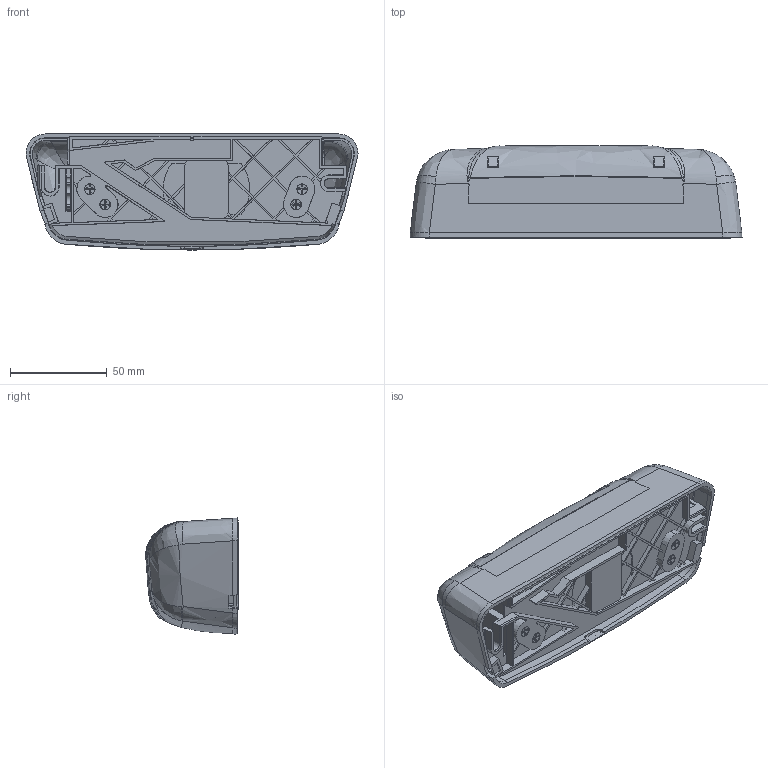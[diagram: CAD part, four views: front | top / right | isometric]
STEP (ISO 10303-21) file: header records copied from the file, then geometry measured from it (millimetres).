
FILE_DESCRIPTION (( 'STEP AP203' ), '1' );
FILE_NAME ('PrimeMotion B 261008.STEP', '2022-04-12T07:39:39', ( '' ), ( '' ), 'SwSTEP 2.0', 'SolidWorks 2017', '' );
FILE_SCHEMA (( 'CONFIG_CONTROL_DESIGN' ));
Products named in the file (1): PrimeMotion B 261008
Bounding box: 172.02 x 48.15 x 60.16 mm (x, y, z)
Volume: 88683.9 mm3; surface area: 92693.3 mm2
Topology: 3 solids, 3 shells, 1873 faces, 4888 edges, 2994 vertices
Faces by surface type: plane 896, bspline 499, cylinder 213, cone 126, torus 83, sphere 56
Entity records: 75918 total; most frequent: CARTESIAN_POINT 35035, ORIENTED_EDGE 9582, DIRECTION 6930, EDGE_CURVE 4791, VERTEX_POINT 2991, LINE 2360, VECTOR 2360, AXIS2_PLACEMENT_3D 2285
